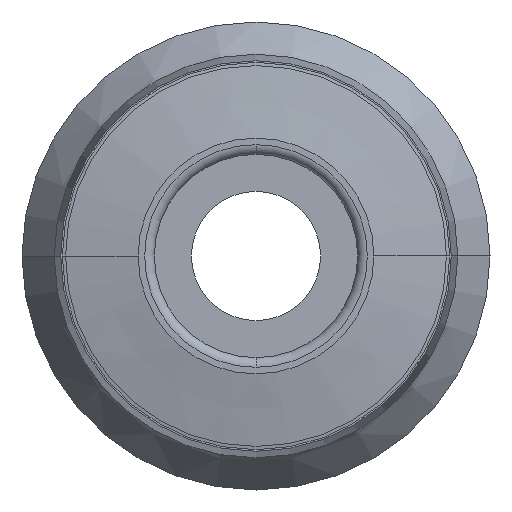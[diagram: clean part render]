
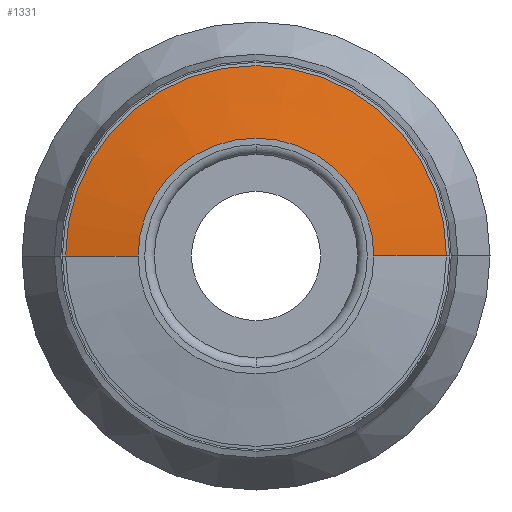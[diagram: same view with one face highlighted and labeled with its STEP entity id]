
A CAD part, front view. The second image highlights one B-rep face of the part: STEP entity #1331.
In plain terms, the highlighted conical face has half-angle 79.919 degrees and reference radius 4.775 mm.
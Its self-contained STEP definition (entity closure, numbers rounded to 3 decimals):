
#169 = DIRECTION ( 'NONE',  ( -1., 0., 0. ) ) ;
#192 = DIRECTION ( 'NONE',  ( 0.985, 0.175, 0. ) ) ;
#207 = CARTESIAN_POINT ( 'NONE',  ( 4.775, 0.2, 0. ) ) ;
#271 = CARTESIAN_POINT ( 'NONE',  ( 0., 0.4, 0. ) ) ;
#307 = LINE ( 'NONE', #207, #1428 ) ;
#308 = ORIENTED_EDGE ( 'NONE', *, *, #363, .F. ) ;
#346 = DIRECTION ( 'NONE',  ( 0., 1., 0. ) ) ;
#358 = CARTESIAN_POINT ( 'NONE',  ( -3.65, 0., 0. ) ) ;
#363 = EDGE_CURVE ( 'NONE', #838, #1288, #1012, .T. ) ;
#364 = VECTOR ( 'NONE', #1389, 1000. ) ;
#398 = VERTEX_POINT ( 'NONE', #479 ) ;
#446 = CARTESIAN_POINT ( 'NONE',  ( -4.775, 0.2, 0. ) ) ;
#460 = VERTEX_POINT ( 'NONE', #472 ) ;
#462 = CARTESIAN_POINT ( 'NONE',  ( 0., 0., 0. ) ) ;
#472 = CARTESIAN_POINT ( 'NONE',  ( 5.9, 0.4, 0. ) ) ;
#473 = ORIENTED_EDGE ( 'NONE', *, *, #984, .F. ) ;
#479 = CARTESIAN_POINT ( 'NONE',  ( 3.65, 0., 0. ) ) ;
#487 = EDGE_CURVE ( 'NONE', #838, #398, #717, .T. ) ;
#498 = EDGE_LOOP ( 'NONE', ( #533, #647, #473, #308 ) ) ;
#533 = ORIENTED_EDGE ( 'NONE', *, *, #487, .T. ) ;
#534 = FACE_OUTER_BOUND ( 'NONE', #498, .T. ) ;
#550 = CARTESIAN_POINT ( 'NONE',  ( 0., 0.2, 0. ) ) ;
#560 = CONICAL_SURFACE ( 'NONE', #958, 4.775, 1.395 ) ;
#644 = DIRECTION ( 'NONE',  ( 0., 1., 0. ) ) ;
#647 = ORIENTED_EDGE ( 'NONE', *, *, #1153, .T. ) ;
#717 = CIRCLE ( 'NONE', #1308, 3.65 ) ;
#743 = DIRECTION ( 'NONE',  ( 0., 1., 0. ) ) ;
#835 = AXIS2_PLACEMENT_3D ( 'NONE', #271, #743, #169 ) ;
#838 = VERTEX_POINT ( 'NONE', #358 ) ;
#921 = CARTESIAN_POINT ( 'NONE',  ( -5.9, 0.4, 0. ) ) ;
#945 = DIRECTION ( 'NONE',  ( -1., 0., 0. ) ) ;
#958 = AXIS2_PLACEMENT_3D ( 'NONE', #550, #644, #1267 ) ;
#984 = EDGE_CURVE ( 'NONE', #1288, #460, #1261, .T. ) ;
#1012 = LINE ( 'NONE', #446, #364 ) ;
#1153 = EDGE_CURVE ( 'NONE', #398, #460, #307, .T. ) ;
#1261 = CIRCLE ( 'NONE', #835, 5.9 ) ;
#1267 = DIRECTION ( 'NONE',  ( -1., 0., 0. ) ) ;
#1288 = VERTEX_POINT ( 'NONE', #921 ) ;
#1308 = AXIS2_PLACEMENT_3D ( 'NONE', #462, #346, #945 ) ;
#1331 = ADVANCED_FACE ( 'NONE', ( #534 ), #560, .T. ) ;
#1389 = DIRECTION ( 'NONE',  ( -0.985, 0.175, 0. ) ) ;
#1428 = VECTOR ( 'NONE', #192, 1000. ) ;
